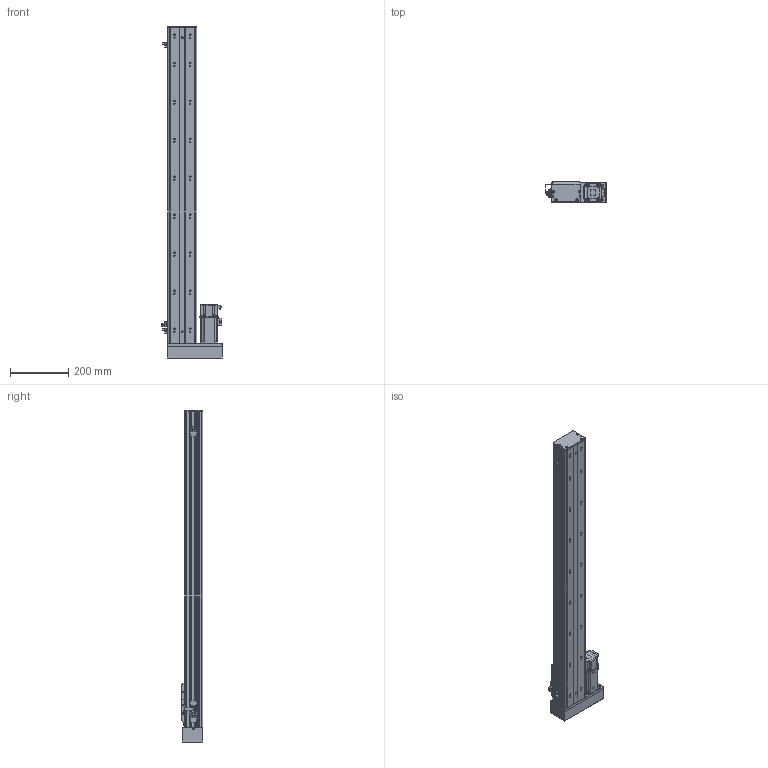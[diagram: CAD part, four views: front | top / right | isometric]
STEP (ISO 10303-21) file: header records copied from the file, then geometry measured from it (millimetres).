
FILE_DESCRIPTION (( 'STEP AP203' ), '1' );
FILE_NAME ('BOSW100-900-1610-1P-LM-M400W-O-S3（方程式2016）.step', '2020-10-10T07:00:25', ( '' ), ( '' ), 'SwSTEP 2.0', 'SolidWorks 2016', '' );
FILE_SCHEMA (( 'CONFIG_CONTROL_DESIGN' ));
Length unit declared in the file: millimetre
Products named in the file (14): BOSW-100-1P-DM-宽轨-钢带-900客户图纸; BOSW&TW-100-詩湍揤沭(陔賦凳); BOSW&TW-100-俋离覜茼え; BOSW&TW-100-1P-賑雄釱欶; boS-100-LM&RM-三菱M400W马达板-宽轨; BOSW100-900-1610-1P-LM-M400W-O-S3（方程式2016）; 放大器内置U型微型光电传感器PM-L65; BOSW-100-綴裔啣; BOSW-100-1P-DM-宽轨-侧板-900客户图纸; AIMS(W)-100-LM&RM-肮祭謫欶; 俋境嫖覜嘐隅啣; BOSW-100-1P-DM-900諦誧芞; 新结构AIMSW-100-1P-宽&高轨共用-滑动座上组件; S400W(SMA-L040)
Assembly tree (19 placements, depth 2):
  BOSW100-900-1610-1P-LM-M400W-O-S3（方程式2016）
    BOSW-100-1P-DM-900諦誧芞
    BOSW-100-綴裔啣
    新结构AIMSW-100-1P-宽&高轨共用-滑动座上组件
    S400W(SMA-L040)
    BOSW&TW-100-詩湍揤沭(陔賦凳)  x2
    BOSW&TW-100-1P-賑雄釱欶
    BOSW&TW-100-俋离覜茼え
    俋境嫖覜嘐隅啣  x3
    放大器内置U型微型光电传感器PM-L65  x3
    BOSW-100-1P-DM-宽轨-侧板-900客户图纸  x2
    BOSW-100-1P-DM-宽轨-钢带-900客户图纸
    AIMS(W)-100-LM&RM-肮祭謫欶
    boS-100-LM&RM-三菱M400W马达板-宽轨
Bounding box: 207.9 x 75 x 1136 mm (x, y, z)
Volume: 2479198.9 mm3; surface area: 1152258.7 mm2
Topology: 19 solids, 20 shells, 2563 faces, 6777 edges, 4327 vertices
Faces by surface type: plane 1247, cylinder 830, bspline 271, cone 167, torus 36, sphere 12
Entity records: 70672 total; most frequent: CARTESIAN_POINT 21082, ORIENTED_EDGE 10094, DIRECTION 9795, EDGE_CURVE 5047, AXIS2_PLACEMENT_3D 3487, VERTEX_POINT 3229, LINE 2821, VECTOR 2821
